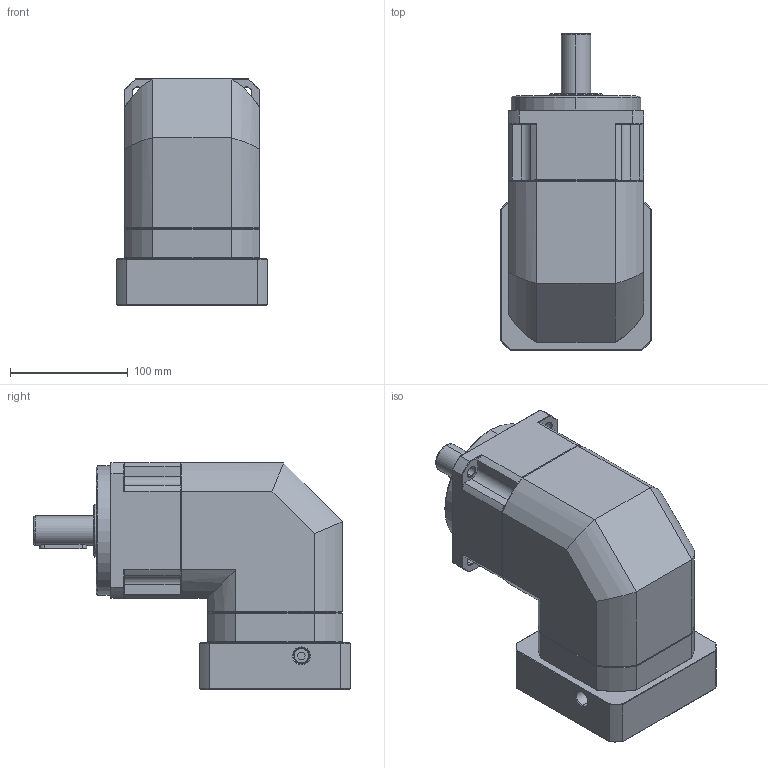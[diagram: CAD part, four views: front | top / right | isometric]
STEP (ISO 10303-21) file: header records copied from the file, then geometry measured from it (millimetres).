
FILE_DESCRIPTION (( 'STEP AP214' ), '1' );
FILE_NAME ('ZPBR115-D25-L1-P1-24-110-145-M8.step', '2024-06-29T07:59:07', ( 'Windows 蚚誧' ), ( 'Organization' ), 'SwSTEP 2.0', 'SolidWorks 2016', '' );
FILE_SCHEMA (( 'AUTOMOTIVE_DESIGN' ));
Length unit declared in the file: millimetre
Products named in the file (1): ZPBR115-D25-L1-P1-24-110-145-M8
Bounding box: 128 x 269 x 192.2 mm (x, y, z)
Surface area: 191936.1 mm2 (no closed solid volume)
Topology: 0 solids, 28 shells, 1832 faces, 4973 edges, 3200 vertices
Faces by surface type: plane 929, bspline 381, cone 270, cylinder 252
Full cylindrical faces by diameter (mm): 10.2 x4
Entity records: 98147 total; most frequent: CARTESIAN_POINT 48940, ORIENTED_EDGE 9748, DIRECTION 7444, EDGE_CURVE 4883, VECTOR 3172, LINE 3172, VERTEX_POINT 3136, AXIS2_PLACEMENT_3D 2136
